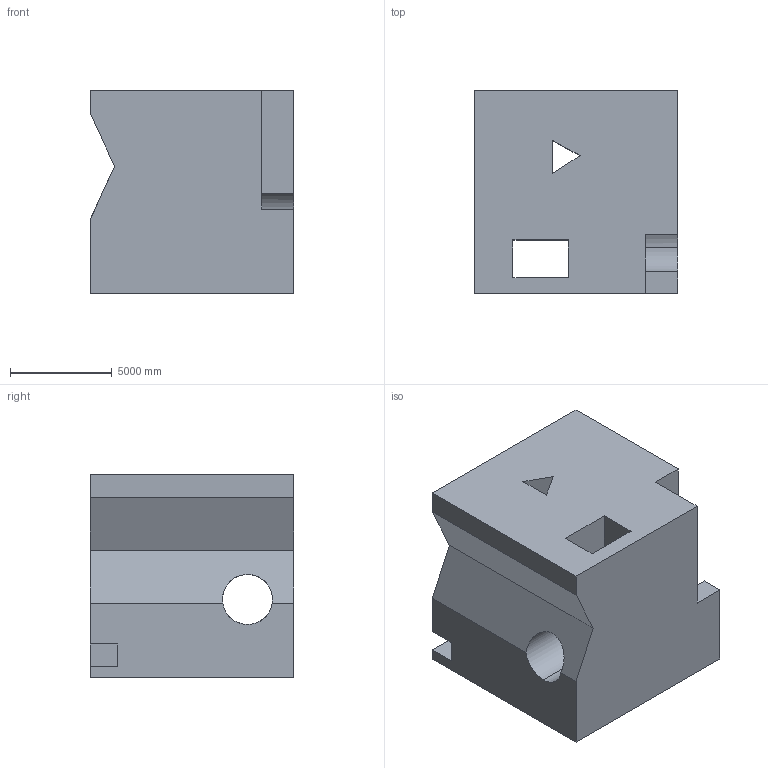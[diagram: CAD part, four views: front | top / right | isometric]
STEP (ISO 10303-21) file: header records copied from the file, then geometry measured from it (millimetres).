
FILE_DESCRIPTION (( 'STEP AP203' ), '1' );
FILE_NAME ('331.STEP', '2022-09-07T12:56:08', ( 'user' ), ( '' ), 'SwSTEP 2.0', 'SolidWorks 2021', '' );
FILE_SCHEMA (( 'CONFIG_CONTROL_DESIGN' ));
Length unit declared in the file: centimetre
Products named in the file (1): 331
Bounding box: 10000 x 10000 x 10000 mm (x, y, z)
Volume: 826621565355.2 mm3; surface area: 789125835 mm2
Topology: 1 solids, 1 shells, 30 faces, 93 edges, 62 vertices
Faces by surface type: plane 25, cylinder 5
Entity records: 1126 total; most frequent: CARTESIAN_POINT 192, ORIENTED_EDGE 186, DIRECTION 169, EDGE_CURVE 93, VECTOR 75, LINE 75, VERTEX_POINT 62, AXIS2_PLACEMENT_3D 47
